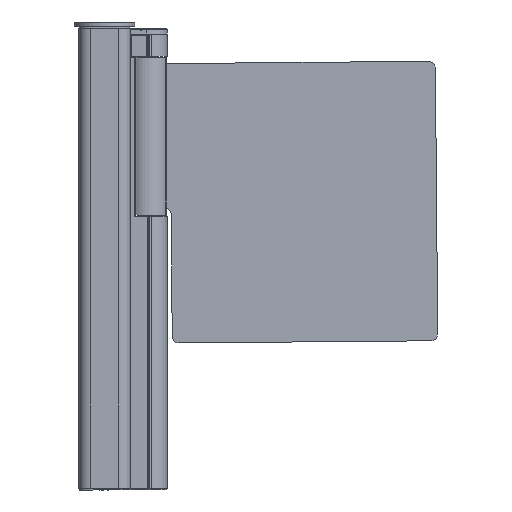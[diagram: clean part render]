
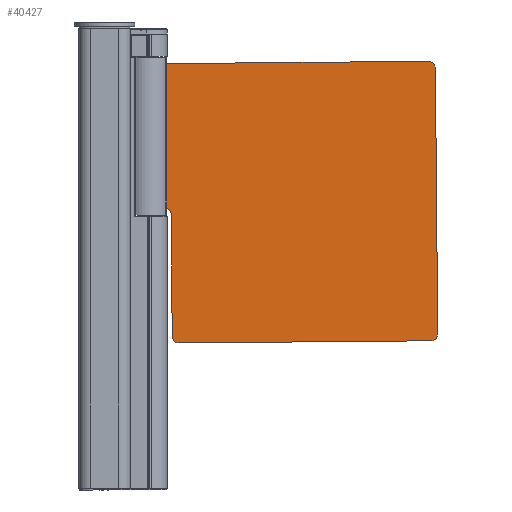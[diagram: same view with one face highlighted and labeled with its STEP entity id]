
A CAD part, front view. The second image highlights one B-rep face of the part: STEP entity #40427.
In plain terms, the highlighted planar face has unit normal (0, -1, 0) as drawn and (0, 0, 1) by its records, which use the part's own axes.
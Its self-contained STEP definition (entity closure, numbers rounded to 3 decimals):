
#5433=LINE('',#69108,#9705);
#5434=LINE('',#69113,#9706);
#5435=LINE('',#69117,#9707);
#5436=LINE('',#69121,#9708);
#5437=LINE('',#69125,#9709);
#5438=LINE('',#69129,#9710);
#5439=LINE('',#69136,#9711);
#5440=LINE('',#69139,#9712);
#5441=LINE('',#69141,#9713);
#5442=LINE('',#69143,#9714);
#9705=VECTOR('',#54192,1000.);
#9706=VECTOR('',#54195,1000.);
#9707=VECTOR('',#54198,1000.);
#9708=VECTOR('',#54201,1000.);
#9709=VECTOR('',#54204,1000.);
#9710=VECTOR('',#54207,1000.);
#9711=VECTOR('',#54214,1000.);
#9712=VECTOR('',#54215,1000.);
#9713=VECTOR('',#54216,1000.);
#9714=VECTOR('',#54217,1000.);
#20217=ORIENTED_EDGE('',*,*,#26177,.F.);
#20218=ORIENTED_EDGE('',*,*,#26178,.T.);
#20219=ORIENTED_EDGE('',*,*,#26179,.T.);
#20220=ORIENTED_EDGE('',*,*,#26180,.T.);
#20221=ORIENTED_EDGE('',*,*,#26181,.T.);
#20222=ORIENTED_EDGE('',*,*,#26182,.T.);
#20223=ORIENTED_EDGE('',*,*,#26183,.T.);
#20224=ORIENTED_EDGE('',*,*,#26184,.T.);
#20225=ORIENTED_EDGE('',*,*,#26185,.T.);
#20226=ORIENTED_EDGE('',*,*,#26186,.T.);
#20227=ORIENTED_EDGE('',*,*,#26187,.T.);
#20228=ORIENTED_EDGE('',*,*,#26188,.T.);
#20229=ORIENTED_EDGE('',*,*,#26189,.T.);
#20230=ORIENTED_EDGE('',*,*,#26190,.F.);
#20231=ORIENTED_EDGE('',*,*,#26191,.F.);
#20232=ORIENTED_EDGE('',*,*,#26192,.T.);
#20233=ORIENTED_EDGE('',*,*,#26193,.T.);
#20234=ORIENTED_EDGE('',*,*,#26194,.T.);
#20235=ORIENTED_EDGE('',*,*,#26195,.T.);
#26177=EDGE_CURVE('',#29903,#29903,#31085,.T.);
#26178=EDGE_CURVE('',#29904,#29905,#5433,.T.);
#26179=EDGE_CURVE('',#29905,#29906,#31086,.T.);
#26180=EDGE_CURVE('',#29906,#29907,#5434,.T.);
#26181=EDGE_CURVE('',#29907,#29908,#31087,.T.);
#26182=EDGE_CURVE('',#29908,#29909,#5435,.T.);
#26183=EDGE_CURVE('',#29909,#29910,#31088,.T.);
#26184=EDGE_CURVE('',#29910,#29911,#5436,.T.);
#26185=EDGE_CURVE('',#29911,#29912,#31089,.T.);
#26186=EDGE_CURVE('',#29912,#29913,#5437,.T.);
#26187=EDGE_CURVE('',#29913,#29914,#31090,.T.);
#26188=EDGE_CURVE('',#29914,#29915,#5438,.T.);
#26189=EDGE_CURVE('',#29915,#29904,#31091,.T.);
#26190=EDGE_CURVE('',#29916,#29916,#31092,.T.);
#26191=EDGE_CURVE('',#29917,#29917,#31093,.T.);
#26192=EDGE_CURVE('',#29918,#29919,#5439,.T.);
#26193=EDGE_CURVE('',#29919,#29920,#5440,.T.);
#26194=EDGE_CURVE('',#29920,#29921,#5441,.T.);
#26195=EDGE_CURVE('',#29921,#29918,#5442,.T.);
#29903=VERTEX_POINT('',#69107);
#29904=VERTEX_POINT('',#69109);
#29905=VERTEX_POINT('',#69110);
#29906=VERTEX_POINT('',#69112);
#29907=VERTEX_POINT('',#69114);
#29908=VERTEX_POINT('',#69116);
#29909=VERTEX_POINT('',#69118);
#29910=VERTEX_POINT('',#69120);
#29911=VERTEX_POINT('',#69122);
#29912=VERTEX_POINT('',#69124);
#29913=VERTEX_POINT('',#69126);
#29914=VERTEX_POINT('',#69128);
#29915=VERTEX_POINT('',#69130);
#29916=VERTEX_POINT('',#69133);
#29917=VERTEX_POINT('',#69135);
#29918=VERTEX_POINT('',#69137);
#29919=VERTEX_POINT('',#69138);
#29920=VERTEX_POINT('',#69140);
#29921=VERTEX_POINT('',#69142);
#31085=CIRCLE('',#44076,6.);
#31086=CIRCLE('',#44077,15.);
#31087=CIRCLE('',#44078,15.);
#31088=CIRCLE('',#44079,15.);
#31089=CIRCLE('',#44080,15.);
#31090=CIRCLE('',#44081,15.);
#31091=CIRCLE('',#44082,15.);
#31092=CIRCLE('',#44083,6.);
#31093=CIRCLE('',#44084,6.);
#33803=EDGE_LOOP('',(#20217));
#33804=EDGE_LOOP('',(#20218,#20219,#20220,#20221,#20222,#20223,#20224,#20225,
#20226,#20227,#20228,#20229));
#33805=EDGE_LOOP('',(#20230));
#33806=EDGE_LOOP('',(#20231));
#33807=EDGE_LOOP('',(#20232,#20233,#20234,#20235));
#36631=FACE_BOUND('',#33803,.T.);
#36632=FACE_BOUND('',#33804,.T.);
#36633=FACE_BOUND('',#33805,.T.);
#36634=FACE_BOUND('',#33806,.T.);
#36635=FACE_BOUND('',#33807,.T.);
#38275=PLANE('',#44075);
#40427=ADVANCED_FACE('',(#36631,#36632,#36633,#36634,#36635),#38275,.T.);
#44075=AXIS2_PLACEMENT_3D('',#69105,#54188,#54189);
#44076=AXIS2_PLACEMENT_3D('',#69106,#54190,#54191);
#44077=AXIS2_PLACEMENT_3D('',#69111,#54193,#54194);
#44078=AXIS2_PLACEMENT_3D('',#69115,#54196,#54197);
#44079=AXIS2_PLACEMENT_3D('',#69119,#54199,#54200);
#44080=AXIS2_PLACEMENT_3D('',#69123,#54202,#54203);
#44081=AXIS2_PLACEMENT_3D('',#69127,#54205,#54206);
#44082=AXIS2_PLACEMENT_3D('',#69131,#54208,#54209);
#44083=AXIS2_PLACEMENT_3D('',#69132,#54210,#54211);
#44084=AXIS2_PLACEMENT_3D('',#69134,#54212,#54213);
#54188=DIRECTION('',(0.,0.,1.));
#54189=DIRECTION('',(1.,0.,0.));
#54190=DIRECTION('',(0.,0.,1.));
#54191=DIRECTION('',(1.,0.,0.));
#54192=DIRECTION('',(-1.,0.,0.));
#54193=DIRECTION('',(0.,0.,1.));
#54194=DIRECTION('',(1.,0.,0.));
#54195=DIRECTION('',(0.,-1.,0.));
#54196=DIRECTION('',(0.,0.,1.));
#54197=DIRECTION('',(1.,0.,0.));
#54198=DIRECTION('',(1.,0.,0.));
#54199=DIRECTION('',(0.,0.,-1.));
#54200=DIRECTION('',(1.,0.,0.));
#54201=DIRECTION('',(0.,-1.,0.));
#54202=DIRECTION('',(0.,0.,1.));
#54203=DIRECTION('',(1.,0.,0.));
#54204=DIRECTION('',(1.,0.,0.));
#54205=DIRECTION('',(0.,0.,1.));
#54206=DIRECTION('',(1.,0.,0.));
#54207=DIRECTION('',(0.,1.,0.));
#54208=DIRECTION('',(0.,0.,1.));
#54209=DIRECTION('',(1.,0.,0.));
#54210=DIRECTION('',(0.,0.,1.));
#54211=DIRECTION('',(1.,0.,0.));
#54212=DIRECTION('',(0.,0.,1.));
#54213=DIRECTION('',(1.,0.,0.));
#54214=DIRECTION('',(1.,0.,0.));
#54215=DIRECTION('',(0.,-1.,0.));
#54216=DIRECTION('',(-1.,0.,0.));
#54217=DIRECTION('',(0.,1.,0.));
#69105=CARTESIAN_POINT('',(455.,-15.,5.));
#69106=CARTESIAN_POINT('',(20.,-275.,5.));
#69107=CARTESIAN_POINT('',(26.,-275.,5.));
#69108=CARTESIAN_POINT('',(455.,0.,5.));
#69109=CARTESIAN_POINT('',(605.,0.,5.));
#69110=CARTESIAN_POINT('',(-15.,0.,5.));
#69111=CARTESIAN_POINT('',(-15.,-15.,5.));
#69112=CARTESIAN_POINT('',(-30.,-15.,5.));
#69113=CARTESIAN_POINT('',(-30.,0.,5.));
#69114=CARTESIAN_POINT('',(-30.,-295.,5.));
#69115=CARTESIAN_POINT('',(-15.,-295.,5.));
#69116=CARTESIAN_POINT('',(-15.,-310.,5.));
#69117=CARTESIAN_POINT('',(-15.,-310.,5.));
#69118=CARTESIAN_POINT('',(35.,-310.,5.));
#69119=CARTESIAN_POINT('',(35.,-325.,5.));
#69120=CARTESIAN_POINT('',(50.,-325.,5.));
#69121=CARTESIAN_POINT('',(50.,-325.,5.));
#69122=CARTESIAN_POINT('',(50.,-585.,5.));
#69123=CARTESIAN_POINT('',(65.,-585.,5.));
#69124=CARTESIAN_POINT('',(65.,-600.,5.));
#69125=CARTESIAN_POINT('',(65.,-600.,5.));
#69126=CARTESIAN_POINT('',(605.,-600.,5.));
#69127=CARTESIAN_POINT('',(605.,-585.,5.));
#69128=CARTESIAN_POINT('',(620.,-585.,5.));
#69129=CARTESIAN_POINT('',(620.,-585.,5.));
#69130=CARTESIAN_POINT('',(620.,-15.,5.));
#69131=CARTESIAN_POINT('',(605.,-15.,5.));
#69132=CARTESIAN_POINT('',(-5.,-155.,5.));
#69133=CARTESIAN_POINT('',(1.,-155.,5.));
#69134=CARTESIAN_POINT('',(20.,-35.,5.));
#69135=CARTESIAN_POINT('',(26.,-35.,5.));
#69136=CARTESIAN_POINT('',(-20.,-225.,5.));
#69137=CARTESIAN_POINT('',(-20.,-225.,5.));
#69138=CARTESIAN_POINT('',(-16.,-225.,5.));
#69139=CARTESIAN_POINT('',(-16.,-225.,5.));
#69140=CARTESIAN_POINT('',(-16.,-250.,5.));
#69141=CARTESIAN_POINT('',(-16.,-250.,5.));
#69142=CARTESIAN_POINT('',(-20.,-250.,5.));
#69143=CARTESIAN_POINT('',(-20.,-250.,5.));
